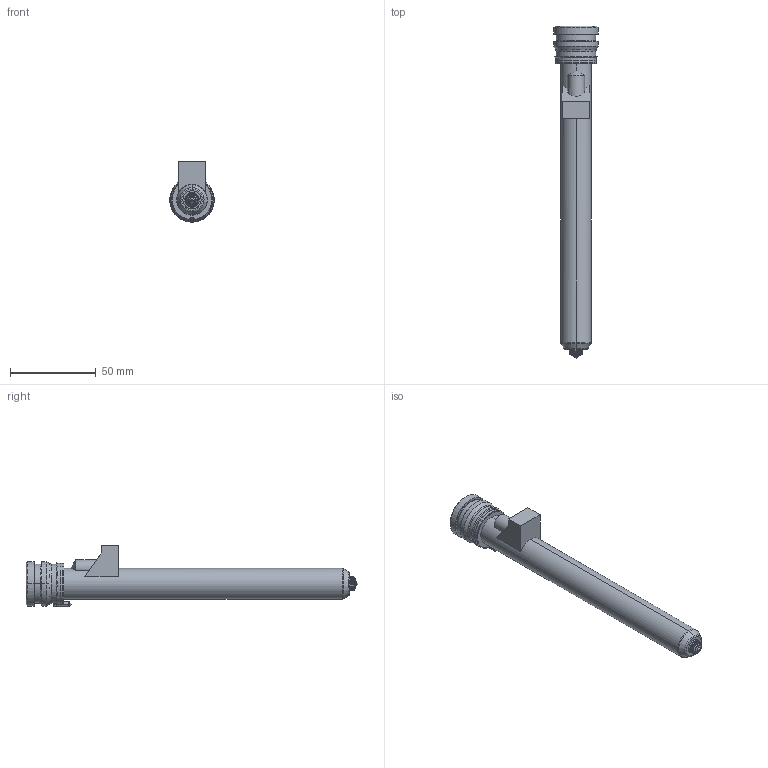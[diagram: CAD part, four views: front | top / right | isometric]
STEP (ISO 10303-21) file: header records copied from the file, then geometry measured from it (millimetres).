
FILE_DESCRIPTION((''),'2;1');
FILE_NAME('TH18176-M-1GLT-PK-JG','2023-12-14T',('umhib'),('Thermoplay S.p.A.'),'PRO/ENGINEER BY PARAMETRIC TECHNOLOGY CORPORATION, 2017170','PRO/ENGINEER BY PARAMETRIC TECHNOLOGY CORPORATION, 2017170','');
FILE_SCHEMA(('CONFIG_CONTROL_DESIGN'));
Length unit declared in the file: millimetre
Products named in the file (1): TH18176-M-1GLT-PK-JG
Bounding box: 26 x 194 x 36.1 mm (x, y, z)
Volume: 38703.9 mm3; surface area: 29333.2 mm2
Topology: 1 solids, 2 shells, 413 faces, 1052 edges, 647 vertices
Faces by surface type: cylinder 160, plane 92, cone 64, torus 64, bspline 22, sphere 9, extrusion 2
Entity records: 16927 total; most frequent: CARTESIAN_POINT 4929, DIRECTION 2166, ORIENTED_EDGE 2078, EDGE_CURVE 1041, AXIS2_PLACEMENT_3D 881, VERTEX_POINT 647, CIRCLE 491, EDGE_LOOP 441
